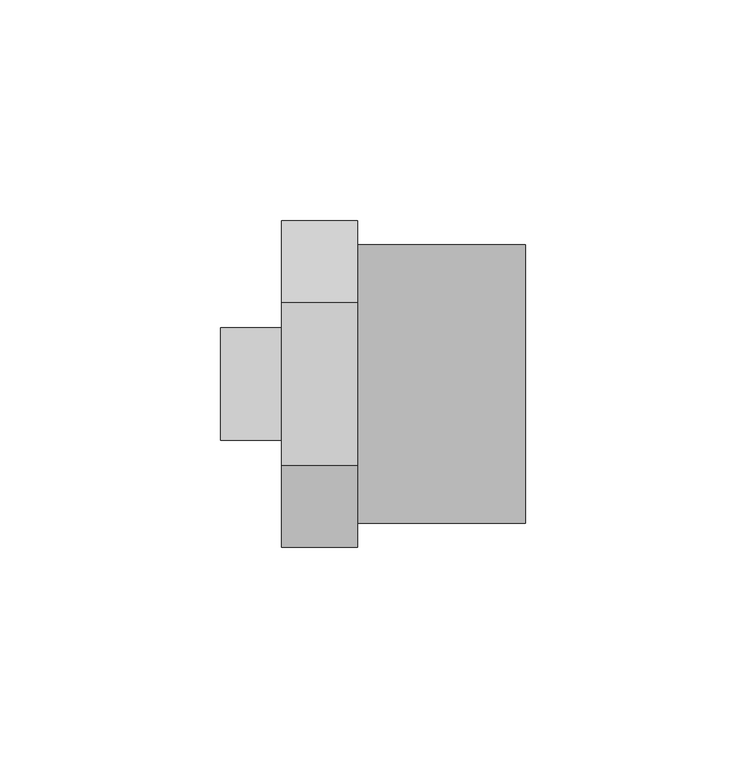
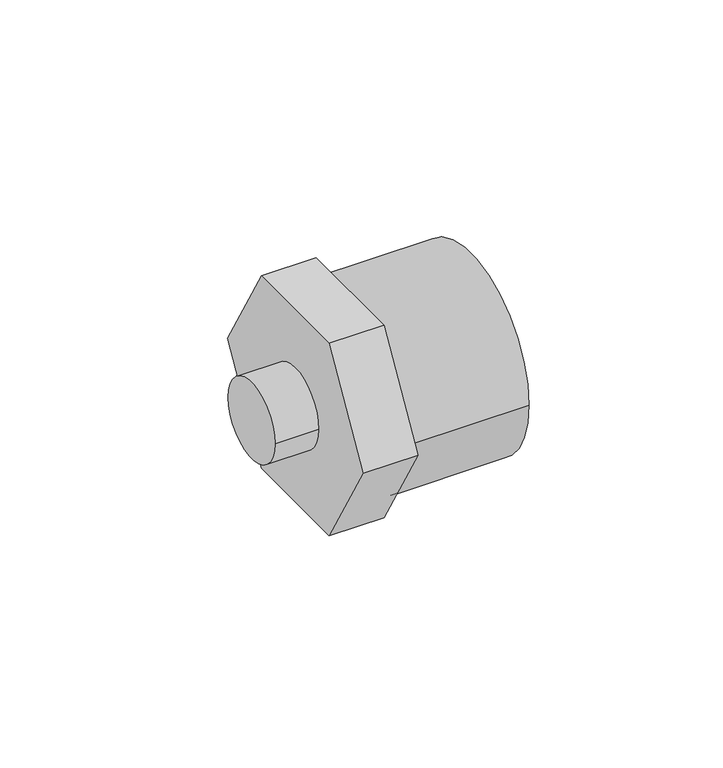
"""IFC4 building model written with IfcOpenShell, lengths in millimetres: pipe fitting geometry, 01101081 : Uniões múltiplas F/M/M."""

from ifc_helpers import new_model, si_unit, point, frame, origin, origin_2d, place, context, project, spatial, polyline, circle_curve, trimmed, segment, composite_curve, outline, extrude, source, transform, mapped, element, save


def pipe_fitting_651d62ae(model_context):
    return source(origin(), model_context, "Body", "SweptSolid", [
        extrude(outline(composite_curve([segment(trimmed(circle_curve(origin_2d(), 12.7), [point((12.7, 0.0))], [point((-12.7, 0.0))], False, "CARTESIAN"), True, "CONTINUOUS"), segment(trimmed(circle_curve(origin_2d(), 12.7), [point((-12.7, 0.0))], [point((12.7, 0.0))], False, "CARTESIAN"), True, "CONTINUOUS")], self_intersect=False)), frame((0.0, 0.0, 0.0), z_axis=(1.0, 0.0, 0.0), x_axis=(0.0, 1.0, 0.0)), (0.0, 0.0, 1.0), 13.75),
        extrude(outline(polyline([(-18.4752086, 32.0), (18.4752086, 32.0), (36.9504172, 0.0), (18.4752086, -32.0), (-18.4752086, -32.0), (-36.9504172, 0.0), (-18.4752086, 32.0)])), frame((13.75, 0.0, 0.0), z_axis=(1.0, 0.0, 0.0), x_axis=(0.0, 1.0, 0.0)), (0.0, 0.0, 1.0), 17.25),
        extrude(outline(composite_curve([segment(trimmed(circle_curve(origin_2d(), 31.5), [point((-31.5, 0.0))], [point((31.5, 0.0))], False, "CARTESIAN"), True, "CONTINUOUS"), segment(trimmed(circle_curve(origin_2d(), 31.5), [point((31.5, 0.0))], [point((-31.5, 0.0))], False, "CARTESIAN"), True, "CONTINUOUS")], self_intersect=False)), frame((31.0, 0.0, 0.0), z_axis=(1.0, 0.0, 0.0), x_axis=(0.0, 1.0, 0.0)), (0.0, 0.0, 1.0), 38.0),
    ])


if __name__ == "__main__":
    model = new_model("IFC4")
    model_context = context("Model", 3, world=origin())
    ifc_project = project(units=[si_unit("LENGTHUNIT", "METRE", prefix="MILLI")], contexts=[model_context])
    site = spatial("IfcSite", under=ifc_project)
    building = spatial("IfcBuilding", under=site)
    placement = place(None, origin())
    pipe_fitting_shape = pipe_fitting_651d62ae(model_context)
    element("IfcPipeFitting", 1, ObjectType="01101081 : Uniões múltiplas F/M/M", at=placement, inside=building, context=model_context, shape_type="MappedRepresentation", body=[
        mapped(pipe_fitting_shape, transform((0.0, 0.0, 0.0), x_axis=(1.0, 0.0, 0.0), y_axis=(0.0, 1.0, 0.0), z_axis=(0.0, 0.0, 1.0))),
    ])
    save(model, "model.ifc")
